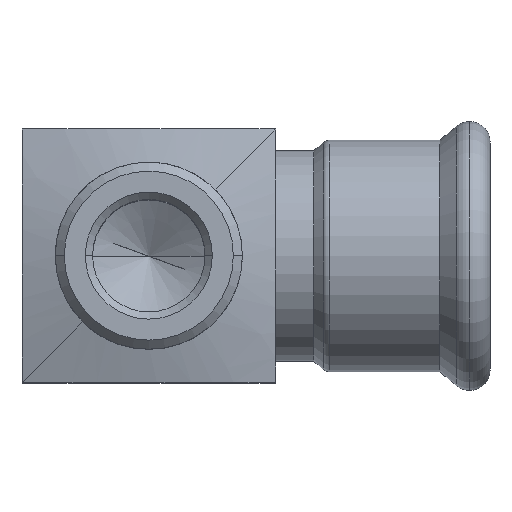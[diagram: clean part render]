
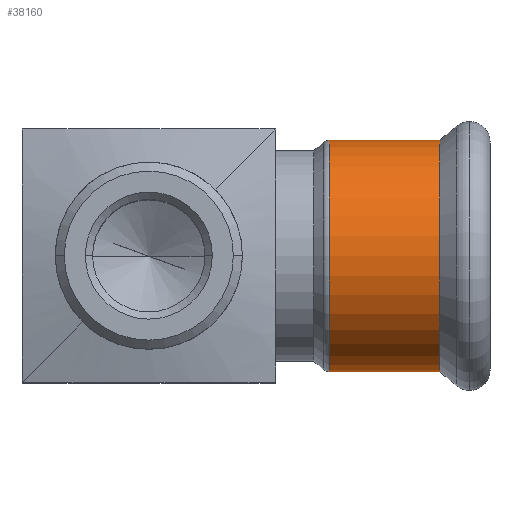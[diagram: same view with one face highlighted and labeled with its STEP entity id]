
A CAD part, top view. The second image highlights one B-rep face of the part: STEP entity #38160.
In plain terms, the highlighted cylindrical face has radius 19.15 mm (diameter 38.3 mm), a partial arc.
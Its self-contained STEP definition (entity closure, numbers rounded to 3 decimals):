
#32030=CARTESIAN_POINT('',(43.9,33.063,17.499));
#32040=VERTEX_POINT('',#32030);
#32140=CARTESIAN_POINT('',(43.9,-5.237,
17.499));
#32150=VERTEX_POINT('',#32140);
#32180=CARTESIAN_POINT('',(43.9,13.913,17.499));
#32190=DIRECTION('',(-1.,0.,0.));
#32200=DIRECTION('',(0.,1.,0.));
#32210=AXIS2_PLACEMENT_3D('',#32180,#32190,#32200);
#32220=CIRCLE('',#32210,19.15);
#32280=CARTESIAN_POINT('',(52.76,13.913,17.499));
#32290=DIRECTION('',(-1.,0.,0.));
#32300=DIRECTION('',(0.,1.,0.));
#32310=AXIS2_PLACEMENT_3D('',#32280,#32290,#32300);
#32320=CYLINDRICAL_SURFACE('',#32310,19.15);
#32330=CARTESIAN_POINT('',(52.76,-5.237,
17.499));
#32340=DIRECTION('',(-1.,0.,0.));
#32350=VECTOR('',#32340,1.);
#32360=LINE('',#32330,#32350);
#32370=CARTESIAN_POINT('',(62.167,-5.237,
17.499));
#32380=VERTEX_POINT('',#32370);
#32390=EDGE_CURVE('',#32380,#32150,#32360,.T.);
#32410=CARTESIAN_POINT('',(62.167,13.913,17.499));
#32420=DIRECTION('',(1.,0.,0.));
#32430=DIRECTION('',(0.,1.,0.));
#32440=AXIS2_PLACEMENT_3D('',#32410,#32420,#32430);
#32450=CIRCLE('',#32440,19.15);
#32460=CARTESIAN_POINT('',(62.167,33.063,17.499));
#32470=VERTEX_POINT('',#32460);
#32500=CARTESIAN_POINT('',(52.76,33.063,17.499));
#32510=DIRECTION('',(-1.,0.,0.));
#32520=VECTOR('',#32510,1.);
#32530=LINE('',#32500,#32520);
#32540=EDGE_CURVE('',#32470,#32040,#32530,.T.);
#38080=EDGE_CURVE('',#32150,#32040,#32220,.T.);
#38090=ORIENTED_EDGE('',*,*,#38080,.F.);
#38100=ORIENTED_EDGE('',*,*,#32540,.T.);
#38110=EDGE_CURVE('',#32470,#32380,#32450,.T.);
#38120=ORIENTED_EDGE('',*,*,#38110,.F.);
#38130=ORIENTED_EDGE('',*,*,#32390,.F.);
#38140=EDGE_LOOP('',(#38130,#38120,#38100,#38090));
#38150=FACE_OUTER_BOUND('',#38140,.T.);
#38160=ADVANCED_FACE('',(#38150),#32320,.T.);
